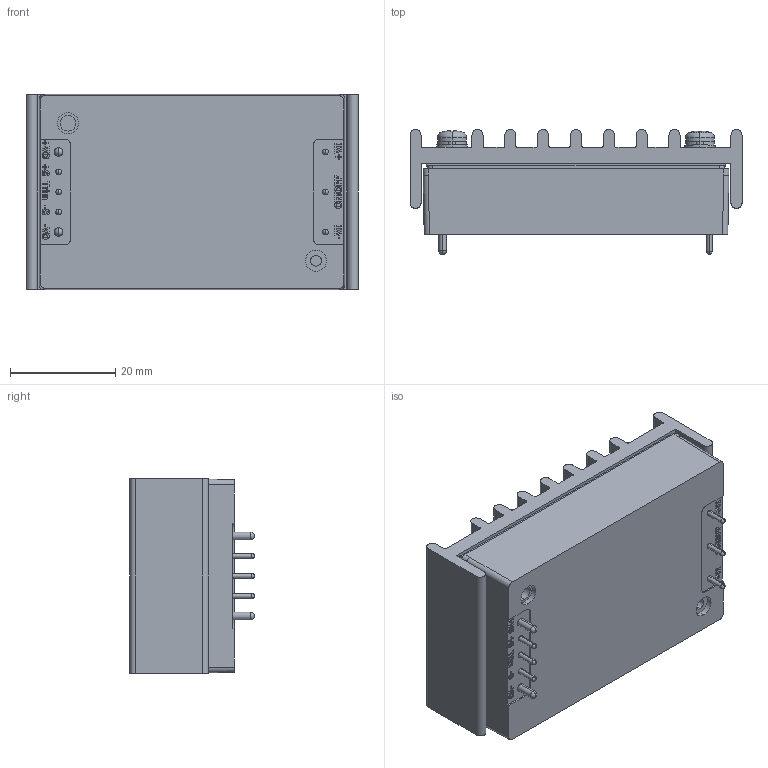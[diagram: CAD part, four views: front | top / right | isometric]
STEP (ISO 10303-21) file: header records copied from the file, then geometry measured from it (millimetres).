
FILE_DESCRIPTION (( 'STEP AP214' ), '1' );
FILE_NAME ('MRZI75+HS(0.25in)(20241022).STEP', '2024-10-22T06:57:27', ( '' ), ( '' ), 'SwSTEP 2.0', 'SolidWorks 2021', '' );
FILE_SCHEMA (( 'AUTOMOTIVE_DESIGN' ));
Length unit declared in the file: millimetre
Products named in the file (6): MRZI75 鋁基板(20211125)_CASE 開口階梯用; Hero_20191120-01(086-HS-46&47&48_1版)_0.25in(086-HS-46); MISUMI-NSET3-12; MRZI75 CASE(081-CMRZI-4)(R09)_欣德(20240507)-印花用; MTQZ50 散熱片導熱矽膠_開口階梯CASE用; MRZI75+HS(0.25in)(20241022)
Assembly tree (6 placements, depth 2):
  MRZI75+HS(0.25in)(20241022)
    MRZI75 CASE(081-CMRZI-4)(R09)_欣德(20240507)-印花用
    MRZI75 鋁基板(20211125)_CASE 開口階梯用
    MTQZ50 散熱片導熱矽膠_開口階梯CASE用
    Hero_20191120-01(086-HS-46&47&48_1版)_0.25in(086-HS-46)
    MISUMI-NSET3-12  x2
Bounding box: 63.2 x 23.75 x 37.14 mm (x, y, z)
Volume: 39313.4 mm3; surface area: 24888.9 mm2
Topology: 8 solids, 8 shells, 1531 faces, 3886 edges, 2577 vertices
Faces by surface type: plane 1231, cylinder 154, bspline 100, cone 22, sphere 20, torus 4
Entity records: 61528 total; most frequent: CARTESIAN_POINT 12451, ORIENTED_EDGE 7504, DIRECTION 6658, EDGE_CURVE 3752, LINE 3206, VECTOR 3206, VERTEX_POINT 2495, EDGE_LOOP 1739
